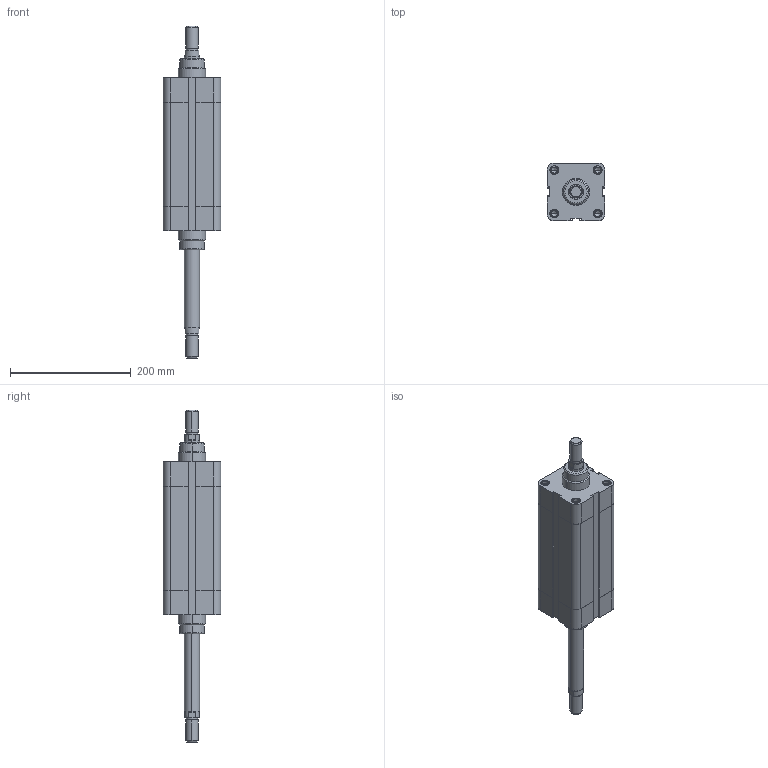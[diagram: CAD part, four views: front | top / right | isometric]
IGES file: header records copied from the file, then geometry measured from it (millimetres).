
Global section: file name: No Iges File Name specified; native system: AutoDesk Inventor R6.1; preprocessor: AutoDesk Inventor Iges Exporter R6.1; author: No Author specified; organization: No Organization specified; date: 20040107.171200; units: millimetre
Bounding box: 95.5 x 95.5 x 550 mm (x, y, z)
Volume: 2389509.4 mm3; surface area: 207856.8 mm2
Topology: 2 solids, 2 shells, 236 faces, 564 edges, 356 vertices
Faces by surface type: plane 80, bspline 62, cylinder 42, revolution 32, cone 16, torus 4
